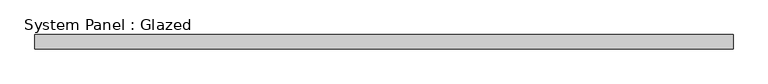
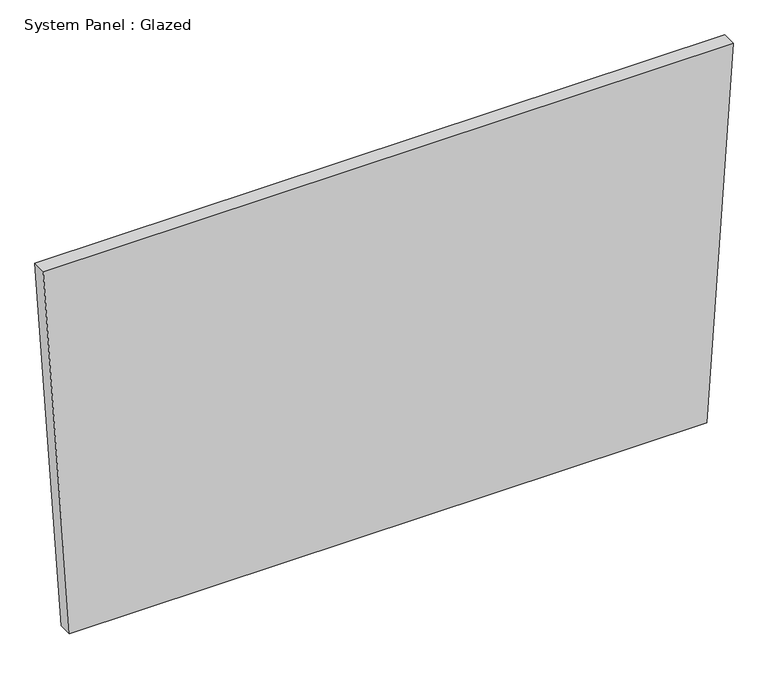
"""IFC4 building model written with IfcOpenShell, lengths in millimetres: plate geometry, System Panel : Glazed."""

from ifc_helpers import new_model, si_unit, frame, origin, place, context, project, spatial, polyline, outline, extrude, source, transform, mapped, element, save


def system_panel_glazed_8ef4ce16(model_context):
    return source(origin(), model_context, "Body", "SweptSolid", [
        extrude(outline(polyline([(0.0, -571.7443696), (0.0004015, 571.7443674), (704.2179209, 619.1502681), (704.2174876, -619.1502681), (0.0, -571.7443696)])), frame((0.0, 19.05, 0.0), z_axis=(0.0, 1.0, 0.0), x_axis=(0.0, 0.0, 1.0)), (0.0, 0.0, 1.0), 25.4),
    ])


if __name__ == "__main__":
    model = new_model("IFC4")
    model_context = context("Model", 3, world=origin())
    ifc_project = project(units=[si_unit("LENGTHUNIT", "METRE", prefix="MILLI")], contexts=[model_context])
    site = spatial("IfcSite", under=ifc_project)
    building = spatial("IfcBuilding", under=site)
    placement = place(None, origin())
    system_panel_glazed_shape = system_panel_glazed_8ef4ce16(model_context)
    element("IfcPlate", 1, ObjectType="System Panel : Glazed", at=placement, inside=building, context=model_context, shape_type="MappedRepresentation", body=[
        mapped(system_panel_glazed_shape, transform((0.0, 0.0, 0.0), x_axis=(1.0, 0.0, 0.0), y_axis=(0.0, 1.0, 0.0), z_axis=(0.0, 0.0, 1.0))),
    ])
    save(model, "model.ifc")
